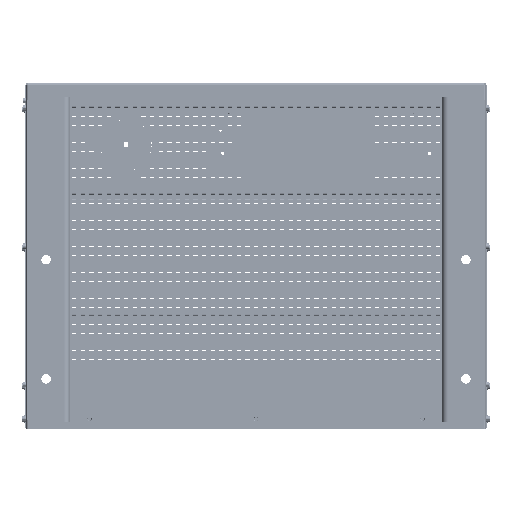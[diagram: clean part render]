
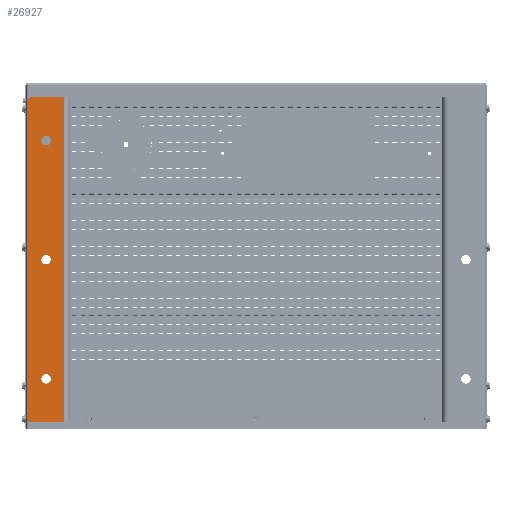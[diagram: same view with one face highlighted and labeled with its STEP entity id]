
A CAD part, front view. The second image highlights one B-rep face of the part: STEP entity #26927.
In plain terms, the highlighted planar face has unit normal (0, -1, 0).
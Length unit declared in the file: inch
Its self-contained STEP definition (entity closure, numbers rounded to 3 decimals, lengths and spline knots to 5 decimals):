
#26927 = ADVANCED_FACE ( 'NONE', ( #517688, #517670, #517706, #517697 ), #190070, .F. ) ;
#47557 = EDGE_CURVE ( 'NONE', #52634, #52634, #108224, .T. ) ;
#47569 = EDGE_CURVE ( 'NONE', #52639, #52639, #108271, .T. ) ;
#47580 = EDGE_CURVE ( 'NONE', #52643, #52643, #108280, .T. ) ;
#47591 = EDGE_CURVE ( 'NONE', #405661, #405609, #108259, .T. ) ;
#47606 = EDGE_CURVE ( 'NONE', #405609, #405502, #108300, .T. ) ;
#47616 = EDGE_CURVE ( 'NONE', #405502, #405496, #108303, .T. ) ;
#47629 = EDGE_CURVE ( 'NONE', #405496, #405479, #108277, .T. ) ;
#47642 = EDGE_CURVE ( 'NONE', #406584, #405479, #108322, .T. ) ;
#47656 = EDGE_CURVE ( 'NONE', #406584, #405661, #108340, .T. ) ;
#52634 = VERTEX_POINT ( 'NONE', #56018 ) ;
#52639 = VERTEX_POINT ( 'NONE', #56019 ) ;
#52643 = VERTEX_POINT ( 'NONE', #56020 ) ;
#56018 = CARTESIAN_POINT ( 'NONE',  ( 0., 0., 0.2185 ) ) ;
#56019 = CARTESIAN_POINT ( 'NONE',  ( 0., 0., 5.7185 ) ) ;
#56020 = CARTESIAN_POINT ( 'NONE',  ( 0., 0., -5.2815 ) ) ;
#72387 = AXIS2_PLACEMENT_3D ( 'NONE', #190120, #190124, #190131 ) ;
#75261 = AXIS2_PLACEMENT_3D ( 'NONE', #80179, #80183, #80187 ) ;
#75264 = AXIS2_PLACEMENT_3D ( 'NONE', #80217, #80220, #80225 ) ;
#75268 = AXIS2_PLACEMENT_3D ( 'NONE', #80255, #80260, #80263 ) ;
#75272 = AXIS2_PLACEMENT_3D ( 'NONE', #80326, #80331, #80336 ) ;
#75276 = AXIS2_PLACEMENT_3D ( 'NONE', #80461, #80464, #80469 ) ;
#80179 = CARTESIAN_POINT ( 'NONE',  ( 0., 0., 0. ) ) ;
#80183 = DIRECTION ( 'NONE',  ( 0., 1., 0. ) ) ;
#80187 = DIRECTION ( 'NONE',  ( 0., 0., 1. ) ) ;
#80217 = CARTESIAN_POINT ( 'NONE',  ( 0., 0., 5.5 ) ) ;
#80220 = DIRECTION ( 'NONE',  ( 0., 1., 0. ) ) ;
#80225 = DIRECTION ( 'NONE',  ( 0., 0., 1. ) ) ;
#80250 = CARTESIAN_POINT ( 'NONE',  ( -0.9, 0., 7.5 ) ) ;
#80255 = CARTESIAN_POINT ( 'NONE',  ( 0., 0., -5.5 ) ) ;
#80260 = DIRECTION ( 'NONE',  ( 0., 1., 0. ) ) ;
#80263 = DIRECTION ( 'NONE',  ( 0., 0., 1. ) ) ;
#80275 = DIRECTION ( 'NONE',  ( 0., 0., -1. ) ) ;
#80326 = CARTESIAN_POINT ( 'NONE',  ( -0.65, 0., -7.25 ) ) ;
#80331 = DIRECTION ( 'NONE',  ( 0., -1., 0. ) ) ;
#80336 = DIRECTION ( 'NONE',  ( 0., 0., 1. ) ) ;
#80347 = CARTESIAN_POINT ( 'NONE',  ( -0.9, 0., -7.5 ) ) ;
#80358 = DIRECTION ( 'NONE',  ( 1., 0., 0. ) ) ;
#80378 = CARTESIAN_POINT ( 'NONE',  ( 0.803, 0., 7.5 ) ) ;
#80390 = DIRECTION ( 'NONE',  ( 0., 0., 1. ) ) ;
#80413 = CARTESIAN_POINT ( 'NONE',  ( -0.9, 0., 7.5 ) ) ;
#80423 = DIRECTION ( 'NONE',  ( 1., 0., 0. ) ) ;
#80461 = CARTESIAN_POINT ( 'NONE',  ( -0.65, 0., 7.25 ) ) ;
#80464 = DIRECTION ( 'NONE',  ( 0., -1., 0. ) ) ;
#80469 = DIRECTION ( 'NONE',  ( 0., 0., 1. ) ) ;
#108224 = CIRCLE ( 'NONE', #75261, 0.2185 ) ;
#108259 = LINE ( 'NONE', #80250, #108297 ) ;
#108271 = CIRCLE ( 'NONE', #75264, 0.2185 ) ;
#108277 = LINE ( 'NONE', #80378, #108325 ) ;
#108280 = CIRCLE ( 'NONE', #75268, 0.2185 ) ;
#108297 = VECTOR ( 'NONE', #80275, 39.37008 ) ;
#108300 = CIRCLE ( 'NONE', #75272, 0.25 ) ;
#108303 = LINE ( 'NONE', #80347, #108314 ) ;
#108311 = VECTOR ( 'NONE', #80423, 39.37008 ) ;
#108314 = VECTOR ( 'NONE', #80358, 39.37008 ) ;
#108322 = LINE ( 'NONE', #80413, #108311 ) ;
#108325 = VECTOR ( 'NONE', #80390, 39.37008 ) ;
#108340 = CIRCLE ( 'NONE', #75276, 0.25 ) ;
#136369 = ORIENTED_EDGE ( 'NONE', *, *, #47569, .T. ) ;
#190070 = PLANE ( 'NONE',  #72387 ) ;
#190120 = CARTESIAN_POINT ( 'NONE',  ( -0.9, 0., 7.5 ) ) ;
#190124 = DIRECTION ( 'NONE',  ( 0., 1., 0. ) ) ;
#190131 = DIRECTION ( 'NONE',  ( 0., 0., 1. ) ) ;
#405479 = VERTEX_POINT ( 'NONE', #435385 ) ;
#405496 = VERTEX_POINT ( 'NONE', #435400 ) ;
#405502 = VERTEX_POINT ( 'NONE', #435408 ) ;
#405609 = VERTEX_POINT ( 'NONE', #435507 ) ;
#405661 = VERTEX_POINT ( 'NONE', #435553 ) ;
#406584 = VERTEX_POINT ( 'NONE', #436124 ) ;
#420163 = EDGE_LOOP ( 'NONE', ( #547011 ) ) ;
#420231 = EDGE_LOOP ( 'NONE', ( #136369 ) ) ;
#420289 = EDGE_LOOP ( 'NONE', ( #547020 ) ) ;
#420320 = EDGE_LOOP ( 'NONE', ( #547029, #547039, #547049, #547057, #547068, #547078 ) ) ;
#435385 = CARTESIAN_POINT ( 'NONE',  ( 0.803, 0., 7.5 ) ) ;
#435400 = CARTESIAN_POINT ( 'NONE',  ( 0.803, 0., -7.5 ) ) ;
#435408 = CARTESIAN_POINT ( 'NONE',  ( -0.65, 0., -7.5 ) ) ;
#435507 = CARTESIAN_POINT ( 'NONE',  ( -0.9, 0., -7.25 ) ) ;
#435553 = CARTESIAN_POINT ( 'NONE',  ( -0.9, 0., 7.25 ) ) ;
#436124 = CARTESIAN_POINT ( 'NONE',  ( -0.65, 0., 7.5 ) ) ;
#517670 = FACE_BOUND ( 'NONE', #420163, .T. ) ;
#517688 = FACE_BOUND ( 'NONE', #420231, .T. ) ;
#517697 = FACE_OUTER_BOUND ( 'NONE', #420320, .T. ) ;
#517706 = FACE_BOUND ( 'NONE', #420289, .T. ) ;
#547011 = ORIENTED_EDGE ( 'NONE', *, *, #47557, .T. ) ;
#547020 = ORIENTED_EDGE ( 'NONE', *, *, #47580, .T. ) ;
#547029 = ORIENTED_EDGE ( 'NONE', *, *, #47591, .T. ) ;
#547039 = ORIENTED_EDGE ( 'NONE', *, *, #47606, .T. ) ;
#547049 = ORIENTED_EDGE ( 'NONE', *, *, #47616, .T. ) ;
#547057 = ORIENTED_EDGE ( 'NONE', *, *, #47629, .T. ) ;
#547068 = ORIENTED_EDGE ( 'NONE', *, *, #47642, .F. ) ;
#547078 = ORIENTED_EDGE ( 'NONE', *, *, #47656, .T. ) ;
